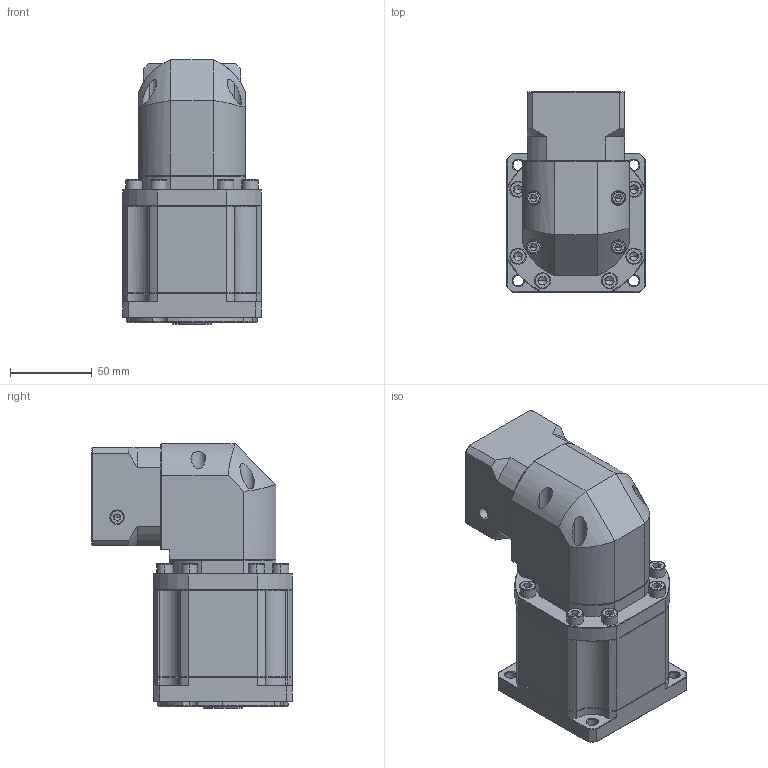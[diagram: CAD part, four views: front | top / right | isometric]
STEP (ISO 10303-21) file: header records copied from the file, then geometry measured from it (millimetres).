
FILE_DESCRIPTION (( 'STEP AP214' ), '1' );
FILE_NAME ('ZBR090-K15-L3-P2-11-50-70-M4.step', '2023-08-19T04:02:20', ( '' ), ( '' ), 'SwSTEP 2.0', 'SolidWorks 2016', '' );
FILE_SCHEMA (( 'AUTOMOTIVE_DESIGN' ));
Length unit declared in the file: millimetre
Products named in the file (1): ZBR090-K15-L3-P2-11-50-70-M4
Bounding box: 85 x 122.7 x 162 mm (x, y, z)
Volume: 904199.1 mm3; surface area: 103657.6 mm2
Topology: 5 solids, 5 shells, 2380 faces, 6337 edges, 4058 vertices
Faces by surface type: plane 1171, bspline 416, cylinder 410, cone 363, torus 20
Entity records: 121160 total; most frequent: CARTESIAN_POINT 38840, ORIENTED_EDGE 12586, DIRECTION 10190, EDGE_CURVE 6293, VERTEX_POINT 4058, VECTOR 3970, LINE 3970, AXIS2_PLACEMENT_3D 3110
